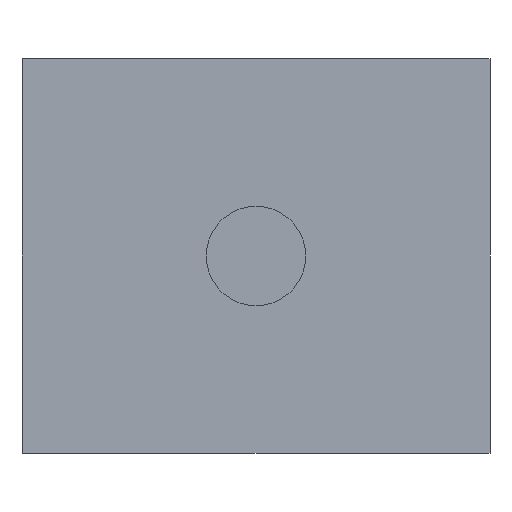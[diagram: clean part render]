
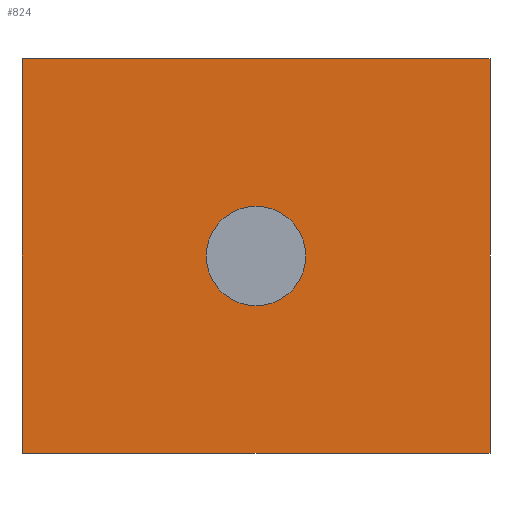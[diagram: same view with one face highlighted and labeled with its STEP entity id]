
A CAD part, front view. The second image highlights one B-rep face of the part: STEP entity #824.
In plain terms, the highlighted planar face has unit normal (0, -1, 0).
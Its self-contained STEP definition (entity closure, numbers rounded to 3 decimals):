
#21 = EDGE_CURVE('',#22,#24,#26,.T.);
#22 = VERTEX_POINT('',#23);
#23 = CARTESIAN_POINT('',(-8.,-20.5,0.));
#24 = VERTEX_POINT('',#25);
#25 = CARTESIAN_POINT('',(-8.,-20.5,13.5));
#26 = SURFACE_CURVE('',#27,(#31,#43),.PCURVE_S1.);
#27 = LINE('',#28,#29);
#28 = CARTESIAN_POINT('',(-8.,-20.5,0.));
#29 = VECTOR('',#30,1.);
#30 = DIRECTION('',(0.,0.,1.));
#31 = PCURVE('',#32,#37);
#32 = PLANE('',#33);
#33 = AXIS2_PLACEMENT_3D('',#34,#35,#36);
#34 = CARTESIAN_POINT('',(-8.,-20.5,0.));
#35 = DIRECTION('',(1.,0.,-0.));
#36 = DIRECTION('',(0.,0.,1.));
#37 = DEFINITIONAL_REPRESENTATION('',(#38),#42);
#38 = LINE('',#39,#40);
#39 = CARTESIAN_POINT('',(0.,0.));
#40 = VECTOR('',#41,1.);
#41 = DIRECTION('',(1.,0.));
#42 = ( GEOMETRIC_REPRESENTATION_CONTEXT(2) 
PARAMETRIC_REPRESENTATION_CONTEXT() REPRESENTATION_CONTEXT('2D SPACE',''
  ) );
#43 = PCURVE('',#44,#49);
#44 = PLANE('',#45);
#45 = AXIS2_PLACEMENT_3D('',#46,#47,#48);
#46 = CARTESIAN_POINT('',(-8.,-20.5,0.));
#47 = DIRECTION('',(-0.,1.,0.));
#48 = DIRECTION('',(0.,0.,1.));
#49 = DEFINITIONAL_REPRESENTATION('',(#50),#54);
#50 = LINE('',#51,#52);
#51 = CARTESIAN_POINT('',(0.,0.));
#52 = VECTOR('',#53,1.);
#53 = DIRECTION('',(1.,0.));
#54 = ( GEOMETRIC_REPRESENTATION_CONTEXT(2) 
PARAMETRIC_REPRESENTATION_CONTEXT() REPRESENTATION_CONTEXT('2D SPACE',''
  ) );
#72 = PLANE('',#73);
#73 = AXIS2_PLACEMENT_3D('',#74,#75,#76);
#74 = CARTESIAN_POINT('',(-8.,-20.5,0.));
#75 = DIRECTION('',(0.,0.,1.));
#76 = DIRECTION('',(1.,0.,-0.));
#126 = PLANE('',#127);
#127 = AXIS2_PLACEMENT_3D('',#128,#129,#130);
#128 = CARTESIAN_POINT('',(-8.,-20.5,13.5));
#129 = DIRECTION('',(0.,0.,1.));
#130 = DIRECTION('',(1.,0.,-0.));
#536 = PLANE('',#537);
#537 = AXIS2_PLACEMENT_3D('',#538,#539,#540);
#538 = CARTESIAN_POINT('',(8.,-20.5,0.));
#539 = DIRECTION('',(1.,0.,-0.));
#540 = DIRECTION('',(0.,0.,1.));
#574 = EDGE_CURVE('',#575,#577,#579,.T.);
#575 = VERTEX_POINT('',#576);
#576 = CARTESIAN_POINT('',(8.,-20.5,0.));
#577 = VERTEX_POINT('',#578);
#578 = CARTESIAN_POINT('',(8.,-20.5,13.5));
#579 = SURFACE_CURVE('',#580,(#584,#591),.PCURVE_S1.);
#580 = LINE('',#581,#582);
#581 = CARTESIAN_POINT('',(8.,-20.5,0.));
#582 = VECTOR('',#583,1.);
#583 = DIRECTION('',(0.,0.,1.));
#584 = PCURVE('',#536,#585);
#585 = DEFINITIONAL_REPRESENTATION('',(#586),#590);
#586 = LINE('',#587,#588);
#587 = CARTESIAN_POINT('',(0.,0.));
#588 = VECTOR('',#589,1.);
#589 = DIRECTION('',(1.,0.));
#590 = ( GEOMETRIC_REPRESENTATION_CONTEXT(2) 
PARAMETRIC_REPRESENTATION_CONTEXT() REPRESENTATION_CONTEXT('2D SPACE',''
  ) );
#591 = PCURVE('',#44,#592);
#592 = DEFINITIONAL_REPRESENTATION('',(#593),#597);
#593 = LINE('',#594,#595);
#594 = CARTESIAN_POINT('',(0.,16.));
#595 = VECTOR('',#596,1.);
#596 = DIRECTION('',(1.,0.));
#597 = ( GEOMETRIC_REPRESENTATION_CONTEXT(2) 
PARAMETRIC_REPRESENTATION_CONTEXT() REPRESENTATION_CONTEXT('2D SPACE',''
  ) );
#768 = EDGE_CURVE('',#22,#575,#769,.T.);
#769 = SURFACE_CURVE('',#770,(#774,#781),.PCURVE_S1.);
#770 = LINE('',#771,#772);
#771 = CARTESIAN_POINT('',(-8.,-20.5,0.));
#772 = VECTOR('',#773,1.);
#773 = DIRECTION('',(1.,0.,-0.));
#774 = PCURVE('',#72,#775);
#775 = DEFINITIONAL_REPRESENTATION('',(#776),#780);
#776 = LINE('',#777,#778);
#777 = CARTESIAN_POINT('',(0.,0.));
#778 = VECTOR('',#779,1.);
#779 = DIRECTION('',(1.,0.));
#780 = ( GEOMETRIC_REPRESENTATION_CONTEXT(2) 
PARAMETRIC_REPRESENTATION_CONTEXT() REPRESENTATION_CONTEXT('2D SPACE',''
  ) );
#781 = PCURVE('',#44,#782);
#782 = DEFINITIONAL_REPRESENTATION('',(#783),#787);
#783 = LINE('',#784,#785);
#784 = CARTESIAN_POINT('',(0.,0.));
#785 = VECTOR('',#786,1.);
#786 = DIRECTION('',(0.,1.));
#787 = ( GEOMETRIC_REPRESENTATION_CONTEXT(2) 
PARAMETRIC_REPRESENTATION_CONTEXT() REPRESENTATION_CONTEXT('2D SPACE',''
  ) );
#799 = EDGE_CURVE('',#24,#577,#800,.T.);
#800 = SURFACE_CURVE('',#801,(#805,#812),.PCURVE_S1.);
#801 = LINE('',#802,#803);
#802 = CARTESIAN_POINT('',(-8.,-20.5,13.5));
#803 = VECTOR('',#804,1.);
#804 = DIRECTION('',(1.,0.,-0.));
#805 = PCURVE('',#126,#806);
#806 = DEFINITIONAL_REPRESENTATION('',(#807),#811);
#807 = LINE('',#808,#809);
#808 = CARTESIAN_POINT('',(0.,0.));
#809 = VECTOR('',#810,1.);
#810 = DIRECTION('',(1.,0.));
#811 = ( GEOMETRIC_REPRESENTATION_CONTEXT(2) 
PARAMETRIC_REPRESENTATION_CONTEXT() REPRESENTATION_CONTEXT('2D SPACE',''
  ) );
#812 = PCURVE('',#44,#813);
#813 = DEFINITIONAL_REPRESENTATION('',(#814),#818);
#814 = LINE('',#815,#816);
#815 = CARTESIAN_POINT('',(13.5,0.));
#816 = VECTOR('',#817,1.);
#817 = DIRECTION('',(0.,1.));
#818 = ( GEOMETRIC_REPRESENTATION_CONTEXT(2) 
PARAMETRIC_REPRESENTATION_CONTEXT() REPRESENTATION_CONTEXT('2D SPACE',''
  ) );
#824 = ADVANCED_FACE('',(#825,#831),#44,.F.);
#825 = FACE_BOUND('',#826,.F.);
#826 = EDGE_LOOP('',(#827,#828,#829,#830));
#827 = ORIENTED_EDGE('',*,*,#768,.F.);
#828 = ORIENTED_EDGE('',*,*,#21,.T.);
#829 = ORIENTED_EDGE('',*,*,#799,.T.);
#830 = ORIENTED_EDGE('',*,*,#574,.F.);
#831 = FACE_BOUND('',#832,.F.);
#832 = EDGE_LOOP('',(#833));
#833 = ORIENTED_EDGE('',*,*,#834,.F.);
#834 = EDGE_CURVE('',#835,#835,#837,.T.);
#835 = VERTEX_POINT('',#836);
#836 = CARTESIAN_POINT('',(0.,-20.5,8.45));
#837 = SURFACE_CURVE('',#838,(#843,#850),.PCURVE_S1.);
#838 = CIRCLE('',#839,1.7);
#839 = AXIS2_PLACEMENT_3D('',#840,#841,#842);
#840 = CARTESIAN_POINT('',(0.,-20.5,6.75));
#841 = DIRECTION('',(0.,1.,0.));
#842 = DIRECTION('',(0.,-0.,1.));
#843 = PCURVE('',#44,#844);
#844 = DEFINITIONAL_REPRESENTATION('',(#845),#849);
#845 = CIRCLE('',#846,1.7);
#846 = AXIS2_PLACEMENT_2D('',#847,#848);
#847 = CARTESIAN_POINT('',(6.75,8.));
#848 = DIRECTION('',(1.,0.));
#849 = ( GEOMETRIC_REPRESENTATION_CONTEXT(2) 
PARAMETRIC_REPRESENTATION_CONTEXT() REPRESENTATION_CONTEXT('2D SPACE',''
  ) );
#850 = PCURVE('',#851,#856);
#851 = CYLINDRICAL_SURFACE('',#852,1.7);
#852 = AXIS2_PLACEMENT_3D('',#853,#854,#855);
#853 = CARTESIAN_POINT('',(0.,-21.5,6.75));
#854 = DIRECTION('',(0.,1.,0.));
#855 = DIRECTION('',(0.,-0.,1.));
#856 = DEFINITIONAL_REPRESENTATION('',(#857),#861);
#857 = LINE('',#858,#859);
#858 = CARTESIAN_POINT('',(0.,1.));
#859 = VECTOR('',#860,1.);
#860 = DIRECTION('',(1.,0.));
#861 = ( GEOMETRIC_REPRESENTATION_CONTEXT(2) 
PARAMETRIC_REPRESENTATION_CONTEXT() REPRESENTATION_CONTEXT('2D SPACE',''
  ) );
